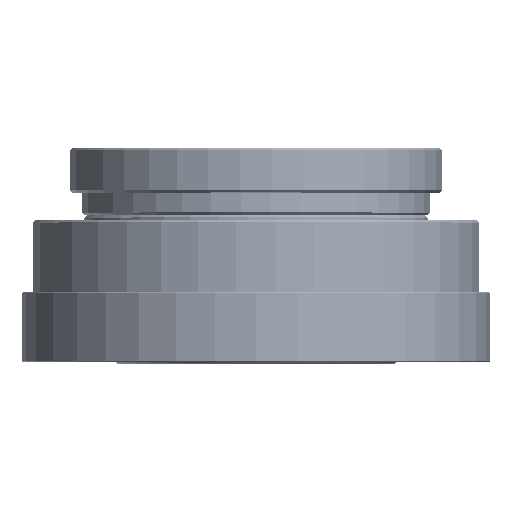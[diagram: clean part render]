
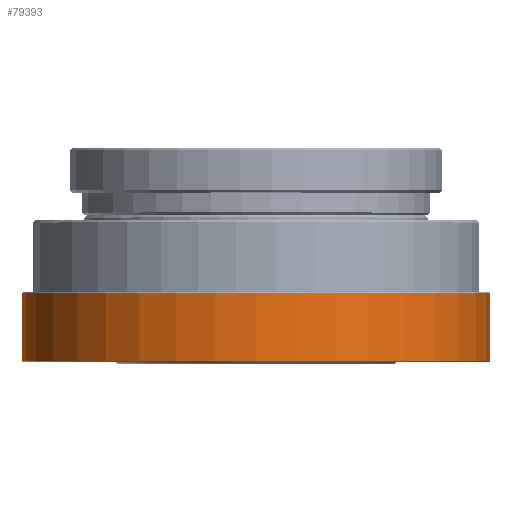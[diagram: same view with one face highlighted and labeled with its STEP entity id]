
A CAD part, top view. The second image highlights one B-rep face of the part: STEP entity #79393.
In plain terms, the highlighted cylindrical face has radius 47 mm (diameter 94 mm), a partial arc.
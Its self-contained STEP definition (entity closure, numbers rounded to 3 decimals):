
#301 = VERTEX_POINT ( 'NONE', #92634 ) ;
#575 = EDGE_LOOP ( 'NONE', ( #89091, #88621, #47372, #94439 ) ) ;
#3346 = CYLINDRICAL_SURFACE ( 'NONE', #37721, 47. ) ;
#4085 = VECTOR ( 'NONE', #10812, 1000. ) ;
#4504 = CARTESIAN_POINT ( 'NONE',  ( 0., 32.841, 0. ) ) ;
#5042 = EDGE_CURVE ( 'NONE', #114631, #41652, #109833, .T. ) ;
#8008 = CARTESIAN_POINT ( 'NONE',  ( 0., -3.3, 0. ) ) ;
#10812 = DIRECTION ( 'NONE',  ( 0., 1., 0. ) ) ;
#15098 = AXIS2_PLACEMENT_3D ( 'NONE', #68508, #113065, #26739 ) ;
#22750 = EDGE_CURVE ( 'NONE', #301, #89043, #27262, .T. ) ;
#26739 = DIRECTION ( 'NONE',  ( 0., 0., -1. ) ) ;
#27262 = LINE ( 'NONE', #64118, #4085 ) ;
#32884 = CARTESIAN_POINT ( 'NONE',  ( 0., 10.3, -47. ) ) ;
#34574 = EDGE_CURVE ( 'NONE', #114631, #301, #89549, .T. ) ;
#37721 = AXIS2_PLACEMENT_3D ( 'NONE', #4504, #74818, #111176 ) ;
#41652 = VERTEX_POINT ( 'NONE', #96925 ) ;
#43726 = DIRECTION ( 'NONE',  ( 0., 1., 0. ) ) ;
#46547 = CARTESIAN_POINT ( 'NONE',  ( 0., 32.841, 47. ) ) ;
#46860 = CIRCLE ( 'NONE', #15098, 47. ) ;
#47372 = ORIENTED_EDGE ( 'NONE', *, *, #22750, .T. ) ;
#47693 = DIRECTION ( 'NONE',  ( 0., 1., 0. ) ) ;
#62842 = EDGE_CURVE ( 'NONE', #89043, #41652, #46860, .T. ) ;
#64118 = CARTESIAN_POINT ( 'NONE',  ( 0., 32.841, -47. ) ) ;
#67328 = VECTOR ( 'NONE', #47693, 1000. ) ;
#68508 = CARTESIAN_POINT ( 'NONE',  ( 0., 10.3, 0. ) ) ;
#74818 = DIRECTION ( 'NONE',  ( 0., 1., 0. ) ) ;
#79393 = ADVANCED_FACE ( 'NONE', ( #83598 ), #3346, .T. ) ;
#79464 = DIRECTION ( 'NONE',  ( 0., 0., 1. ) ) ;
#83598 = FACE_OUTER_BOUND ( 'NONE', #575, .T. ) ;
#88621 = ORIENTED_EDGE ( 'NONE', *, *, #34574, .T. ) ;
#89043 = VERTEX_POINT ( 'NONE', #32884 ) ;
#89091 = ORIENTED_EDGE ( 'NONE', *, *, #5042, .F. ) ;
#89549 = CIRCLE ( 'NONE', #102671, 47. ) ;
#92634 = CARTESIAN_POINT ( 'NONE',  ( 0., -3.3, -47. ) ) ;
#94439 = ORIENTED_EDGE ( 'NONE', *, *, #62842, .T. ) ;
#96925 = CARTESIAN_POINT ( 'NONE',  ( 0., 10.3, 47. ) ) ;
#102671 = AXIS2_PLACEMENT_3D ( 'NONE', #8008, #43726, #79464 ) ;
#106860 = CARTESIAN_POINT ( 'NONE',  ( 0., -3.3, 47. ) ) ;
#109833 = LINE ( 'NONE', #46547, #67328 ) ;
#111176 = DIRECTION ( 'NONE',  ( 0., 0., -1. ) ) ;
#113065 = DIRECTION ( 'NONE',  ( 0., -1., 0. ) ) ;
#114631 = VERTEX_POINT ( 'NONE', #106860 ) ;
